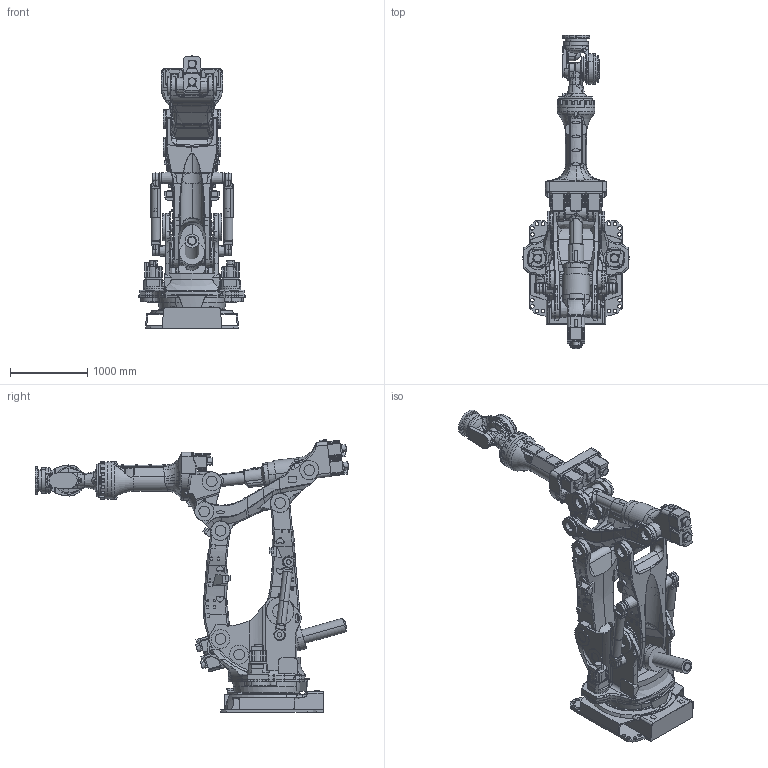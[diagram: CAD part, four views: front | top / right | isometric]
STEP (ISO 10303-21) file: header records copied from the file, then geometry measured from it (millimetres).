
FILE_DESCRIPTION(('CATIA V5 STEP Exchange'),'2;1');
FILE_NAME('C:\Users\RBUSERS\Desktop\CS-Conf_161216~\MG10HL-B001_161220\軽量化\Part\前回のMG10HL-A001から今回更新のもののみ差し替えassy\STEP\MG10HL-B001.stp','2017-01-16T09:05:07+00:00',('none'),('none'),'CATIA Version 5-6 Release 2013 SP5 HF60','CATIA V5 STEP AP203','none');
FILE_SCHEMA(('CONFIG_CONTROL_DESIGN'));
Products named in the file (1): MG10HL-B001
Assembly tree (25 placements, depth 2):
  MG10HL-B001
    #57
    #7107
    #27971
    #34110
    #46998
    #73698
    #80211
    #85228
    #92770
    #94533
    #110364
    #136613
    #139213
    #143623
    #145377
    #145498
    #148098
    #152210
    #155116
    #156394
    #159145
    #162122
    #163491
    #164304
    #164801
Bounding box: 1377.56 x 4052.57 x 3529.58 mm (x, y, z)
Volume: 1585057160.2 mm3; surface area: 42797981.4 mm2
Topology: 46 solids, 52 shells, 3888 faces, 10472 edges, 6827 vertices
Faces by surface type: plane 1580, cylinder 1279, bspline 352, cone 308, revolution 187, torus 85, extrusion 65, sphere 32
Entity records: 166013 total; most frequent: CARTESIAN_POINT 77235, ORIENTED_EDGE 20892, DIRECTION 13302, EDGE_CURVE 10446, VERTEX_POINT 6827, AXIS2_PLACEMENT_3D 5735, VECTOR 4557, LINE 4492
